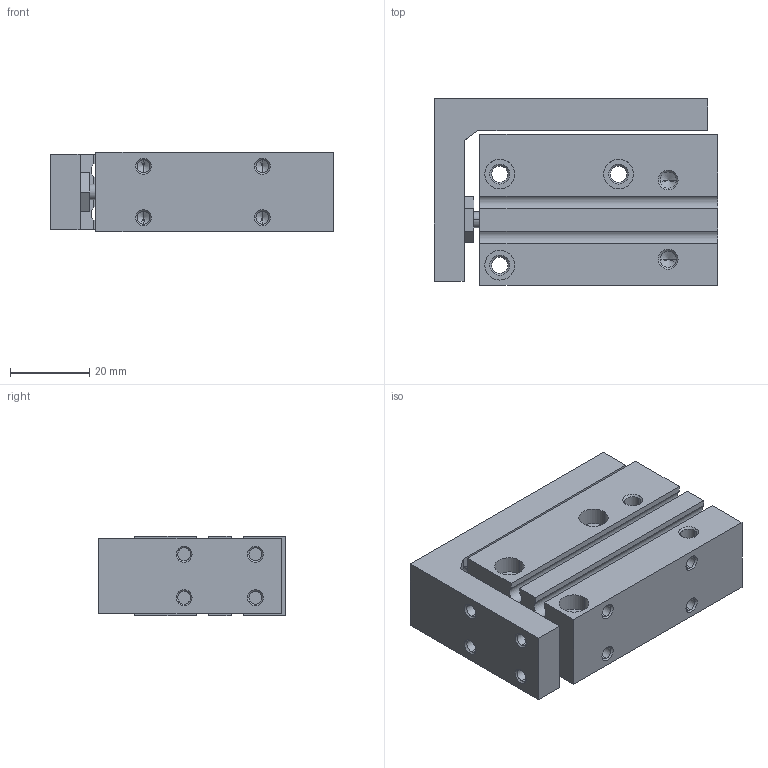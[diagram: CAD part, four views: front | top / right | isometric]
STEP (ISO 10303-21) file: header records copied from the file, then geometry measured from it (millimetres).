
FILE_DESCRIPTION (( 'STEP AP203' ), '1' );
FILE_NAME ('CXH10-25.STEP', '2020-04-16T18:07:11', ( '' ), ( '' ), 'SwSTEP 2.0', 'SolidWorks 2019', '' );
FILE_SCHEMA (( 'CONFIG_CONTROL_DESIGN' ));
Length unit declared in the file: millimetre
Products named in the file (1): CXH10-25
Bounding box: 71.5 x 47 x 20 mm (x, y, z)
Volume: 53039.8 mm3; surface area: 21475.8 mm2
Topology: 2 solids, 2 shells, 208 faces, 495 edges, 286 vertices
Faces by surface type: cone 88, cylinder 76, plane 44
Entity records: 5972 total; most frequent: DIRECTION 1093, CARTESIAN_POINT 1048, ORIENTED_EDGE 934, EDGE_CURVE 467, AXIS2_PLACEMENT_3D 421, VERTEX_POINT 286, EDGE_LOOP 253, VECTOR 251
